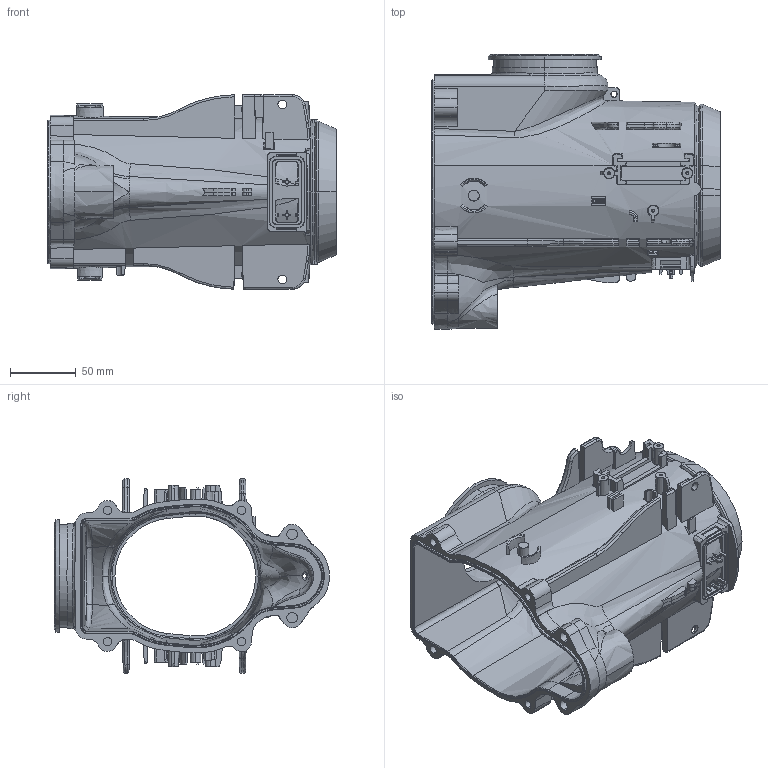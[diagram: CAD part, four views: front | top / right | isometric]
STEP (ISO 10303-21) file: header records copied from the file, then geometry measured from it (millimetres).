
FILE_DESCRIPTION (( 'STEP AP214' ), '1' );
FILE_NAME ('P-00107 - separator housing - v2.2.7_457mm Total Height.STEP', '2026-06-12T21:39:02', ( '' ), ( '' ), 'SwSTEP 2.0', 'SolidWorks 2023', '' );
FILE_SCHEMA (( 'AUTOMOTIVE_DESIGN' ));
Length unit declared in the file: inch
Products named in the file (1): P-00107 - separator housing - v2.2.7_457mm Total Height
Bounding box: 219.49 x 209.39 x 148 mm (x, y, z)
Volume: 666251.2 mm3; surface area: 240451.2 mm2
Topology: 1 solids, 1 shells, 1011 faces, 2655 edges, 1688 vertices
Faces by surface type: plane 420, bspline 310, cone 149, cylinder 114, torus 18
Entity records: 75534 total; most frequent: CARTESIAN_POINT 54096, ORIENTED_EDGE 5304, DIRECTION 3147, EDGE_CURVE 2652, VERTEX_POINT 1688, B_SPLINE_CURVE_WITH_KNOTS 1244, AXIS2_PLACEMENT_3D 1102, EDGE_LOOP 1068
